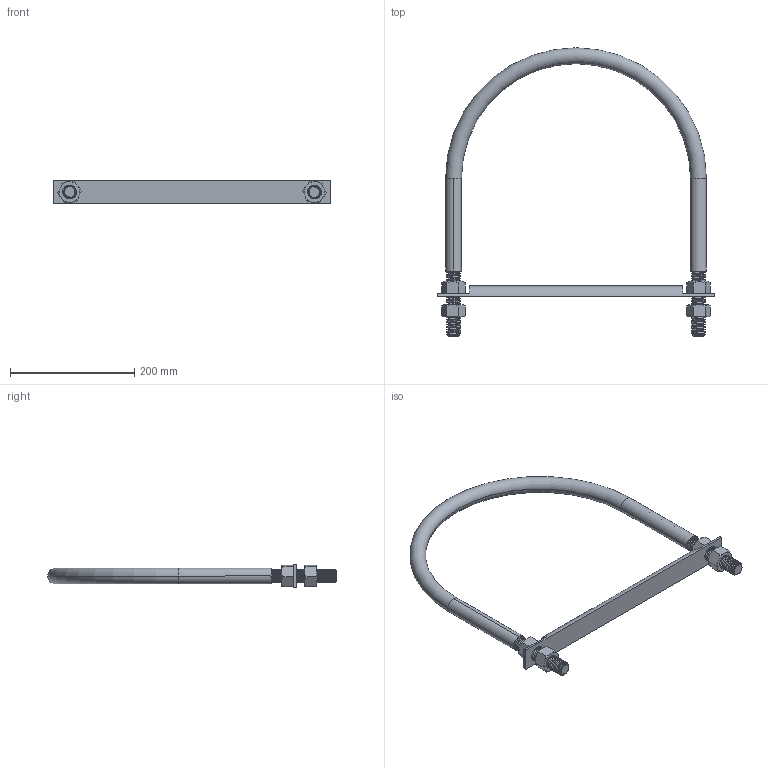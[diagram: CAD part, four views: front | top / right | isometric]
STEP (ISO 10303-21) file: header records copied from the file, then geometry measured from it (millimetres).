
FILE_DESCRIPTION (( 'STEP AP214' ), '1' );
FILE_NAME ('NUB1473.STEP', '2022-04-04T17:43:37', ( '' ), ( '' ), 'SwSTEP 2.0', 'SolidWorks 2021', '' );
FILE_SCHEMA (( 'AUTOMOTIVE_DESIGN' ));
Length unit declared in the file: inch
Products named in the file (4): UBT1000_UBT20-14-0.875-9 XL [NUB1473]; ROD0647_IR20-14 XL [NUB1473]; NUB1473; FAS0049
Assembly tree (6 placements, depth 2):
  NUB1473
    FAS0049  x4
    UBT1000_UBT20-14-0.875-9 XL [NUB1473]
    ROD0647_IR20-14 XL [NUB1473]
Bounding box: 444.5 x 463.65 x 38.02 mm (x, y, z)
Volume: 788299.4 mm3; surface area: 289213.3 mm2
Topology: 7 solids, 7 shells, 307 faces, 799 edges, 506 vertices
Faces by surface type: cylinder 182, cone 70, plane 45, torus 6, bspline 4
Entity records: 17996 total; most frequent: CARTESIAN_POINT 12831, ORIENTED_EDGE 1238, DIRECTION 807, EDGE_CURVE 619, VERTEX_POINT 404, AXIS2_PLACEMENT_3D 302, EDGE_LOOP 231, ADVANCED_FACE 223
